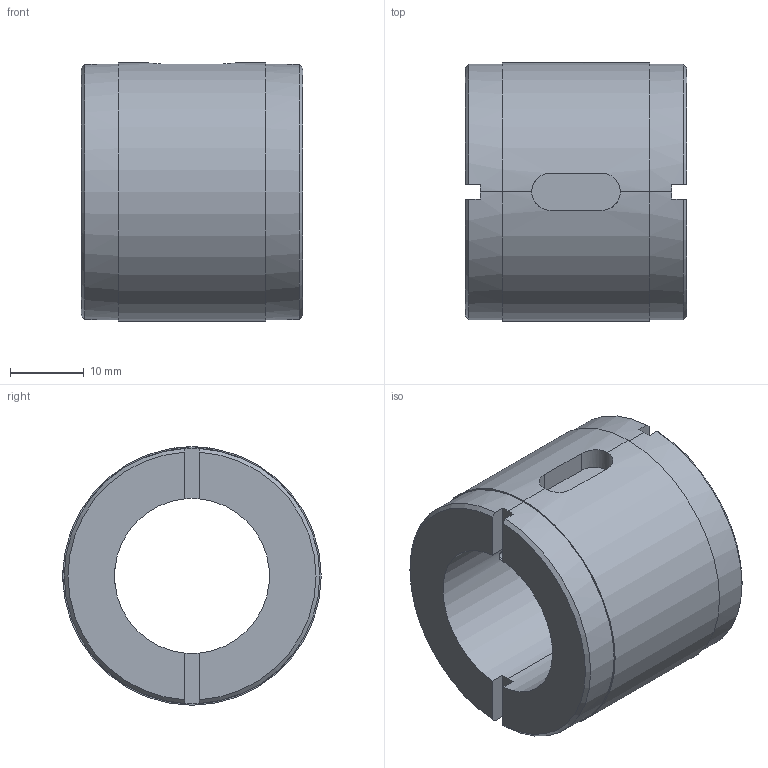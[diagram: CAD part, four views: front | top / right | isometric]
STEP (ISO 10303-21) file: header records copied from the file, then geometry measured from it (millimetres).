
FILE_DESCRIPTION (( 'STEP AP214' ), '1' );
FILE_NAME ('KGM-N 2020.STEP', '2021-01-19T08:45:33', ( 'user' ), ( 'datathink' ), 'SwSTEP 2.0', 'SolidWorks 2013', '' );
FILE_SCHEMA (( 'AUTOMOTIVE_DESIGN' ));
Length unit declared in the file: millimetre
Products named in the file (1): KGM-N 2020
Bounding box: 30 x 35 x 35 mm (x, y, z)
Volume: 17945.8 mm3; surface area: 6625.4 mm2
Topology: 1 solids, 1 shells, 38 faces, 107 edges, 71 vertices
Faces by surface type: plane 21, cylinder 13, cone 4
Entity records: 1400 total; most frequent: CARTESIAN_POINT 365, ORIENTED_EDGE 214, DIRECTION 208, EDGE_CURVE 107, AXIS2_PLACEMENT_3D 78, VERTEX_POINT 71, LINE 52, VECTOR 52
